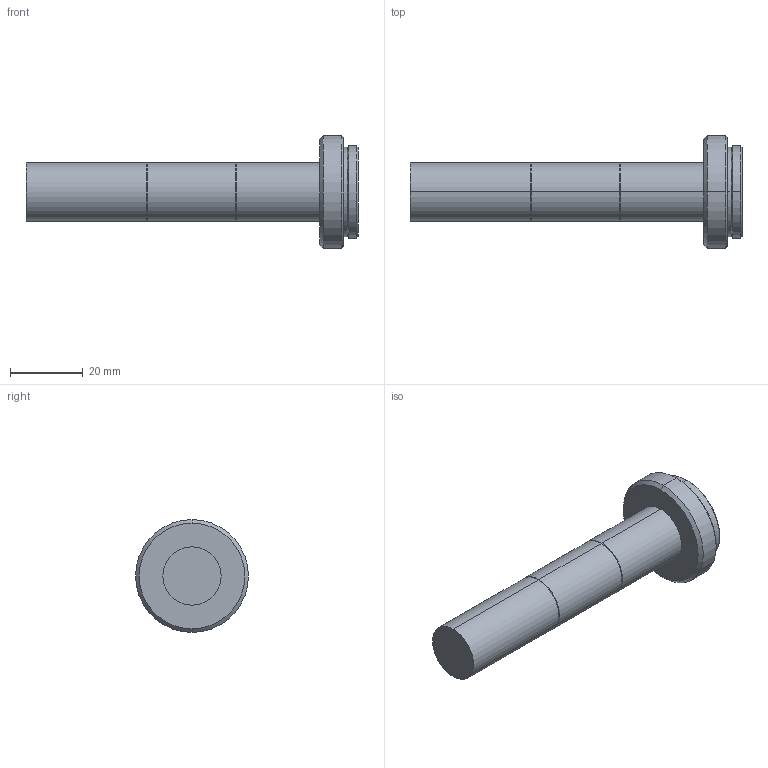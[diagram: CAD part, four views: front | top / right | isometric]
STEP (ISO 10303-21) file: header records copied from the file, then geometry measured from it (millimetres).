
FILE_DESCRIPTION (( 'STEP AP203' ), '1' );
FILE_NAME ('VS-TC2-110-LD.STEP', '2020-02-13T01:22:08', ( '' ), ( '' ), 'SwSTEP 2.0', 'SolidWorks 2017', '' );
FILE_SCHEMA (( 'CONFIG_CONTROL_DESIGN' ));
Length unit declared in the file: millimetre
Products named in the file (1): VS-TC2-110-LD
Bounding box: 91.2 x 31 x 31 mm (x, y, z)
Volume: 23053.9 mm3; surface area: 6461.8 mm2
Topology: 1 solids, 1 shells, 32 faces, 62 edges, 34 vertices
Faces by surface type: cone 16, cylinder 12, plane 4
Entity records: 881 total; most frequent: DIRECTION 162, CARTESIAN_POINT 129, ORIENTED_EDGE 124, AXIS2_PLACEMENT_3D 67, EDGE_CURVE 62, CIRCLE 34, VERTEX_POINT 34, EDGE_LOOP 34
